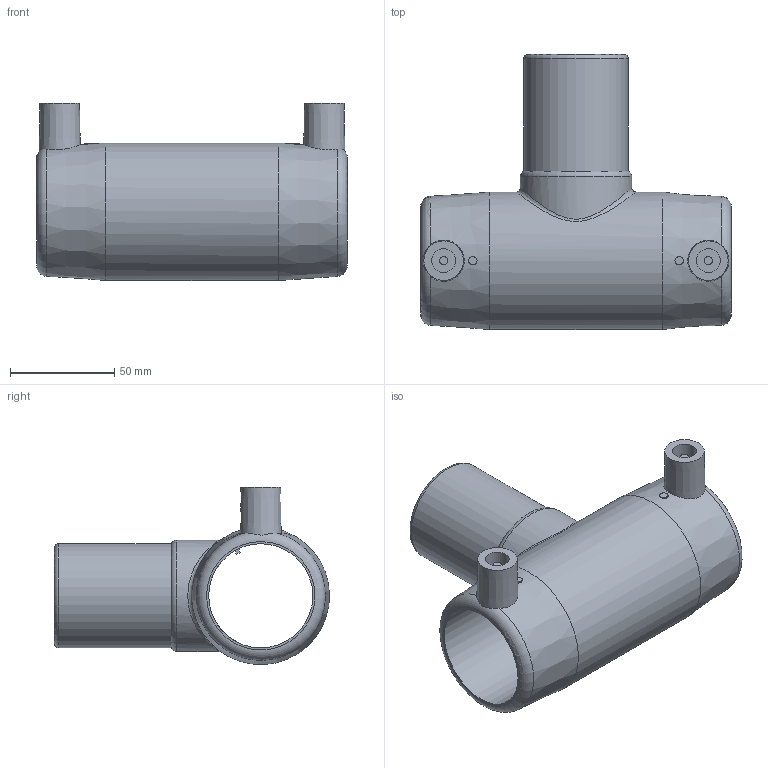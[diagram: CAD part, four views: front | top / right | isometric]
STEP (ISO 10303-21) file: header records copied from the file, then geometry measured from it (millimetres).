
FILE_DESCRIPTION(/* description */ ('Unknown'),/* implementation_level */ '2;1');
FILE_NAME(/* name */ 'TEP050C',/* time_stamp */ '2021-04-02T10:07:53+02:00',/* author */ ('Unknown'),/* organization */ ('Unknown'),/* preprocessor_version */ 'ST-DEVELOPER v16.7',/* originating_system */ 'Solid Edge',/* authorisation */ 'Unknown');
FILE_SCHEMA (('AUTOMOTIVE_DESIGN {1 0 10303 214 3 1 1}'));
Length unit declared in the file: millimetre
Products named in the file (1): TEP050C
Bounding box: 149 x 132 x 85 mm (x, y, z)
Volume: 248744.6 mm3; surface area: 77516.3 mm2
Topology: 1 solids, 1 shells, 36 faces, 77 edges, 50 vertices
Faces by surface type: plane 16, cylinder 11, torus 4, cone 4, bspline 1
Full cylindrical faces by diameter (mm): 4 x4, 11.5 x2, 40.8 x1, 50 x2, 53.5 x1, 66 x1
Entity records: 1134 total; most frequent: CARTESIAN_POINT 460, DIRECTION 136, ORIENTED_EDGE 92, EDGE_LOOP 68, FACE_BOUND 68, AXIS2_PLACEMENT_3D 63, EDGE_CURVE 46, VERTEX_POINT 40
